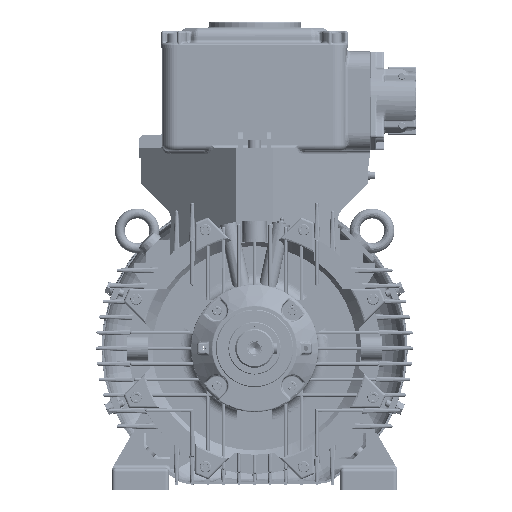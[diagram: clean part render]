
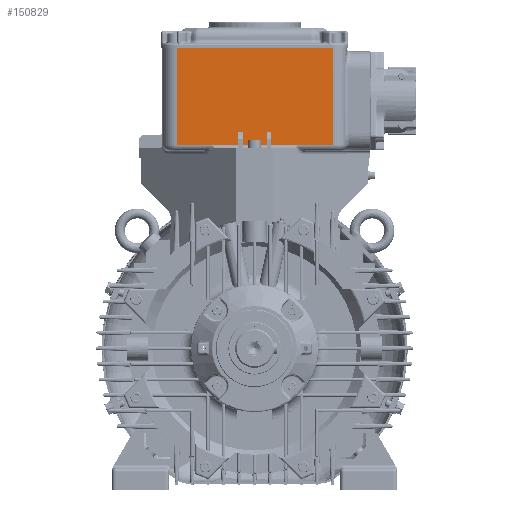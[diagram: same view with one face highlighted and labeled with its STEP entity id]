
A CAD part, left-side view. The second image highlights one B-rep face of the part: STEP entity #150829.
In plain terms, the highlighted planar face has unit normal (-1, 0, 0).
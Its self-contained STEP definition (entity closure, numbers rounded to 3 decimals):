
#2166=LINE('',#222853,#14677);
#2169=LINE('',#222866,#14680);
#2279=LINE('',#223721,#14790);
#2283=LINE('',#223733,#14794);
#2287=LINE('',#223742,#14798);
#2290=LINE('',#223747,#14801);
#2312=LINE('',#223809,#14823);
#2319=LINE('',#224130,#14830);
#2327=LINE('',#224409,#14838);
#2330=LINE('',#224414,#14841);
#2339=LINE('',#224448,#14850);
#2360=LINE('',#224541,#14871);
#2369=LINE('',#224561,#14880);
#2370=LINE('',#224563,#14881);
#2419=LINE('',#224963,#14930);
#2420=LINE('',#224964,#14931);
#14677=VECTOR('',#175865,1000.);
#14680=VECTOR('',#175876,1000.);
#14790=VECTOR('',#176422,1000.);
#14794=VECTOR('',#176432,1000.);
#14798=VECTOR('',#176440,1000.);
#14801=VECTOR('',#176445,1000.);
#14823=VECTOR('',#176515,1000.);
#14830=VECTOR('',#176558,1000.);
#14838=VECTOR('',#176610,1000.);
#14841=VECTOR('',#176615,1000.);
#14850=VECTOR('',#176656,1000.);
#14871=VECTOR('',#176777,1000.);
#14880=VECTOR('',#176796,1000.);
#14881=VECTOR('',#176799,1000.);
#14930=VECTOR('',#176986,1000.);
#14931=VECTOR('',#176987,1000.);
#27150=PLANE('',#160427);
#40969=ORIENTED_EDGE('',*,*,#77698,.T.);
#40970=ORIENTED_EDGE('',*,*,#77428,.F.);
#40971=ORIENTED_EDGE('',*,*,#77695,.T.);
#40972=ORIENTED_EDGE('',*,*,#77807,.F.);
#40973=ORIENTED_EDGE('',*,*,#77728,.F.);
#40974=ORIENTED_EDGE('',*,*,#77786,.T.);
#40975=ORIENTED_EDGE('',*,*,#77861,.F.);
#40976=ORIENTED_EDGE('',*,*,#77849,.F.);
#40977=ORIENTED_EDGE('',*,*,#77862,.T.);
#40978=ORIENTED_EDGE('',*,*,#77789,.T.);
#40979=ORIENTED_EDGE('',*,*,#77756,.F.);
#40980=ORIENTED_EDGE('',*,*,#77951,.F.);
#40981=ORIENTED_EDGE('',*,*,#77684,.F.);
#40982=ORIENTED_EDGE('',*,*,#77434,.T.);
#40983=ORIENTED_EDGE('',*,*,#77690,.F.);
#40984=ORIENTED_EDGE('',*,*,#77952,.F.);
#77428=EDGE_CURVE('',#96410,#96411,#2166,.T.);
#77434=EDGE_CURVE('',#96414,#96416,#2169,.T.);
#77684=EDGE_CURVE('',#96414,#96579,#2279,.T.);
#77690=EDGE_CURVE('',#96583,#96416,#2283,.T.);
#77695=EDGE_CURVE('',#96410,#96586,#2287,.T.);
#77698=EDGE_CURVE('',#96588,#96411,#2290,.T.);
#77728=EDGE_CURVE('',#96603,#96604,#2312,.T.);
#77756=EDGE_CURVE('',#96623,#96624,#2319,.T.);
#77786=EDGE_CURVE('',#96603,#96643,#2327,.T.);
#77789=EDGE_CURVE('',#96646,#96624,#2330,.T.);
#77807=EDGE_CURVE('',#96604,#96586,#2339,.T.);
#77849=EDGE_CURVE('',#96676,#96677,#2360,.T.);
#77861=EDGE_CURVE('',#96677,#96643,#2369,.T.);
#77862=EDGE_CURVE('',#96676,#96646,#2370,.T.);
#77951=EDGE_CURVE('',#96579,#96623,#2419,.T.);
#77952=EDGE_CURVE('',#96588,#96583,#2420,.T.);
#96410=VERTEX_POINT('',#222852);
#96411=VERTEX_POINT('',#222854);
#96414=VERTEX_POINT('',#222861);
#96416=VERTEX_POINT('',#222865);
#96579=VERTEX_POINT('',#223722);
#96583=VERTEX_POINT('',#223732);
#96586=VERTEX_POINT('',#223741);
#96588=VERTEX_POINT('',#223748);
#96603=VERTEX_POINT('',#223808);
#96604=VERTEX_POINT('',#223810);
#96623=VERTEX_POINT('',#224129);
#96624=VERTEX_POINT('',#224131);
#96643=VERTEX_POINT('',#224404);
#96646=VERTEX_POINT('',#224415);
#96676=VERTEX_POINT('',#224540);
#96677=VERTEX_POINT('',#224542);
#114324=EDGE_LOOP('',(#40969,#40970,#40971,#40972,#40973,#40974,#40975,
#40976,#40977,#40978,#40979,#40980,#40981,#40982,#40983,#40984));
#124757=FACE_BOUND('',#114324,.T.);
#150829=ADVANCED_FACE('',(#124757),#27150,.F.);
#160427=AXIS2_PLACEMENT_3D('',#224962,#176984,#176985);
#175865=DIRECTION('',(0.,1.,0.));
#175876=DIRECTION('',(0.,-1.,0.));
#176422=DIRECTION('',(0.,0.,-1.));
#176432=DIRECTION('',(0.,0.,1.));
#176440=DIRECTION('',(0.,0.,-1.));
#176445=DIRECTION('',(0.,0.,1.));
#176515=DIRECTION('',(0.,0.,1.));
#176558=DIRECTION('',(0.,0.,-1.));
#176610=DIRECTION('',(0.,-1.,0.));
#176615=DIRECTION('',(0.,-1.,0.));
#176656=DIRECTION('',(0.,1.,0.));
#176777=DIRECTION('',(0.,-1.,0.));
#176796=DIRECTION('',(0.,0.,-1.));
#176799=DIRECTION('',(0.,0.,-1.));
#176984=DIRECTION('',(1.,0.,0.));
#176985=DIRECTION('',(0.,0.,-1.));
#176986=DIRECTION('',(0.,1.,0.));
#176987=DIRECTION('',(0.,1.,0.));
#222852=CARTESIAN_POINT('',(46.,-23.,305.54));
#222853=CARTESIAN_POINT('',(46.,-23.,305.54));
#222854=CARTESIAN_POINT('',(46.,-17.,305.54));
#222861=CARTESIAN_POINT('',(46.,23.,305.54));
#222865=CARTESIAN_POINT('',(46.,17.,305.54));
#222866=CARTESIAN_POINT('',(46.,110.,305.54));
#223721=CARTESIAN_POINT('',(46.,23.,423.538));
#223722=CARTESIAN_POINT('',(46.,23.,287.54));
#223732=CARTESIAN_POINT('',(46.,17.,287.54));
#223733=CARTESIAN_POINT('',(46.,17.,423.538));
#223741=CARTESIAN_POINT('',(46.,-23.,287.54));
#223742=CARTESIAN_POINT('',(46.,-23.,423.538));
#223747=CARTESIAN_POINT('',(46.,-17.,423.538));
#223748=CARTESIAN_POINT('',(46.,-17.,287.54));
#223808=CARTESIAN_POINT('',(46.,-60.899,287.038));
#223809=CARTESIAN_POINT('',(46.,-60.899,287.038));
#223810=CARTESIAN_POINT('',(46.,-60.899,287.54));
#224129=CARTESIAN_POINT('',(46.,60.899,287.54));
#224130=CARTESIAN_POINT('',(46.,60.899,287.54));
#224131=CARTESIAN_POINT('',(46.,60.899,287.038));
#224404=CARTESIAN_POINT('',(46.,-110.,287.038));
#224409=CARTESIAN_POINT('',(46.,110.,287.038));
#224414=CARTESIAN_POINT('',(46.,110.,287.038));
#224415=CARTESIAN_POINT('',(46.,110.,287.038));
#224448=CARTESIAN_POINT('',(46.,-58.828,287.54));
#224540=CARTESIAN_POINT('',(46.,110.,423.538));
#224541=CARTESIAN_POINT('',(46.,110.,423.538));
#224542=CARTESIAN_POINT('',(46.,-110.,423.538));
#224561=CARTESIAN_POINT('',(46.,-110.,423.538));
#224563=CARTESIAN_POINT('',(46.,110.,423.538));
#224962=CARTESIAN_POINT('',(46.,110.,423.538));
#224963=CARTESIAN_POINT('',(46.,-58.828,287.54));
#224964=CARTESIAN_POINT('',(46.,-58.828,287.54));
